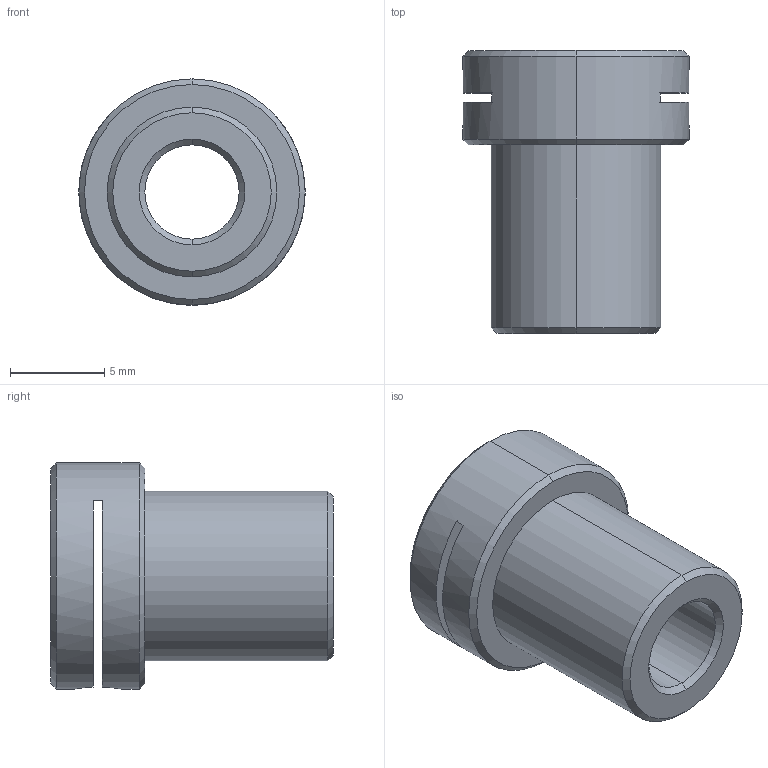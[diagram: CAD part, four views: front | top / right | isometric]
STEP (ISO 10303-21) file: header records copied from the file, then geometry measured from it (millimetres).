
FILE_DESCRIPTION (( 'STEP AP214' ), '1' );
FILE_NAME ('2蹟譫.STEP', '2026-10-09T05:41:08', ( '' ), ( '' ), 'SwSTEP 2.0', 'SolidWorks 2024', '' );
FILE_SCHEMA (( 'AUTOMOTIVE_DESIGN' ));
Length unit declared in the file: millimetre
Products named in the file (1): 2螺母
Bounding box: 12 x 15 x 12 mm (x, y, z)
Volume: 852.8 mm3; surface area: 1015.2 mm2
Topology: 1 solids, 1 shells, 30 faces, 71 edges, 44 vertices
Faces by surface type: cone 14, cylinder 10, plane 6
Entity records: 948 total; most frequent: CARTESIAN_POINT 214, DIRECTION 157, ORIENTED_EDGE 142, EDGE_CURVE 71, AXIS2_PLACEMENT_3D 65, VERTEX_POINT 44, EDGE_LOOP 35, CIRCLE 34
